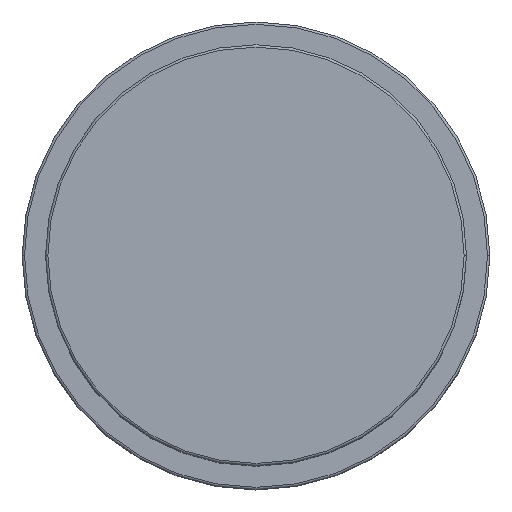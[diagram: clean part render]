
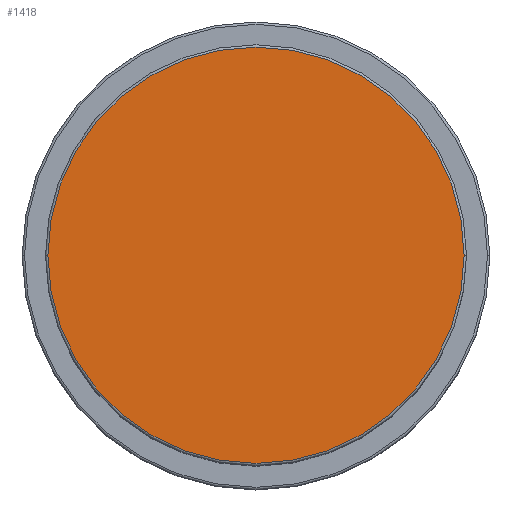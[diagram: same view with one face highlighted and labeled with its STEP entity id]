
A CAD part, top view. The second image highlights one B-rep face of the part: STEP entity #1418.
In plain terms, the highlighted planar face has unit normal (0, 0, 1).
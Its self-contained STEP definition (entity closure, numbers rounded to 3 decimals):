
#65 = CARTESIAN_POINT ( 'NONE',  ( 0., 0., 92. ) ) ;
#255 = VERTEX_POINT ( 'NONE', #976 ) ;
#363 = CARTESIAN_POINT ( 'NONE',  ( 0., 0., 92. ) ) ;
#503 = ORIENTED_EDGE ( 'NONE', *, *, #4389, .T. ) ;
#640 = DIRECTION ( 'NONE',  ( 0., 0., 1. ) ) ;
#976 = CARTESIAN_POINT ( 'NONE',  ( -44.5, 0., 92. ) ) ;
#1130 = DIRECTION ( 'NONE',  ( 1., 0., 0. ) ) ;
#1190 = DIRECTION ( 'NONE',  ( 1., 0., 0. ) ) ;
#1375 = AXIS2_PLACEMENT_3D ( 'NONE', #65, #3968, #1130 ) ;
#1418 = ADVANCED_FACE ( 'NONE', ( #2246 ), #4591, .T. ) ;
#1585 = AXIS2_PLACEMENT_3D ( 'NONE', #5699, #640, #1190 ) ;
#1869 = EDGE_CURVE ( 'NONE', #255, #5101, #3642, .T. ) ;
#2075 = EDGE_LOOP ( 'NONE', ( #503, #4826 ) ) ;
#2246 = FACE_OUTER_BOUND ( 'NONE', #2075, .T. ) ;
#3008 = AXIS2_PLACEMENT_3D ( 'NONE', #363, #6009, #4867 ) ;
#3642 = CIRCLE ( 'NONE', #3008, 44.5 ) ;
#3764 = CARTESIAN_POINT ( 'NONE',  ( 44.5, 0., 92. ) ) ;
#3968 = DIRECTION ( 'NONE',  ( 0., 0., 1. ) ) ;
#4389 = EDGE_CURVE ( 'NONE', #5101, #255, #6080, .T. ) ;
#4591 = PLANE ( 'NONE',  #1375 ) ;
#4826 = ORIENTED_EDGE ( 'NONE', *, *, #1869, .T. ) ;
#4867 = DIRECTION ( 'NONE',  ( 1., 0., 0. ) ) ;
#5101 = VERTEX_POINT ( 'NONE', #3764 ) ;
#5699 = CARTESIAN_POINT ( 'NONE',  ( 0., 0., 92. ) ) ;
#6009 = DIRECTION ( 'NONE',  ( 0., 0., 1. ) ) ;
#6080 = CIRCLE ( 'NONE', #1585, 44.5 ) ;
